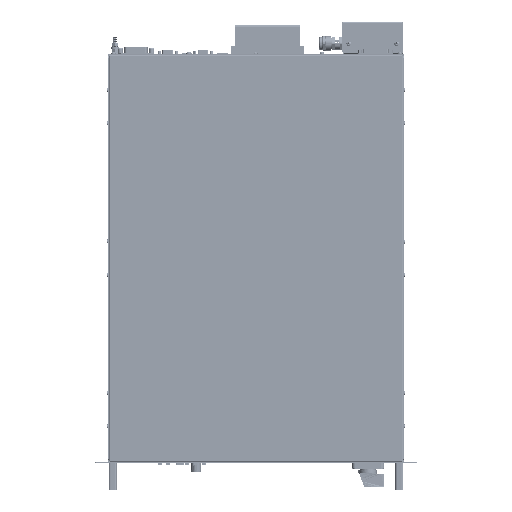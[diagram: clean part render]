
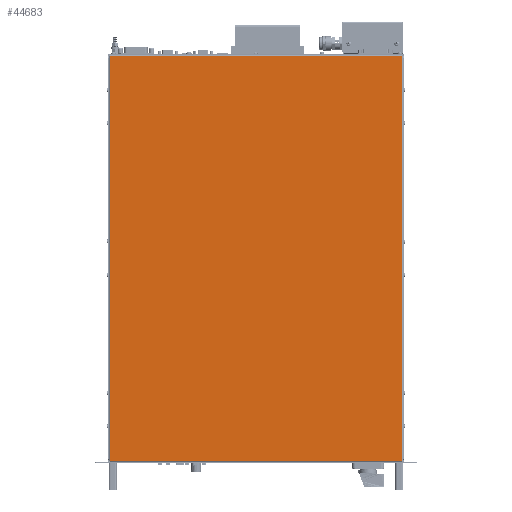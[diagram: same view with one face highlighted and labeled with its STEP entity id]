
A CAD part, top view. The second image highlights one B-rep face of the part: STEP entity #44683.
In plain terms, the highlighted planar face has unit normal (0, 0, 1).
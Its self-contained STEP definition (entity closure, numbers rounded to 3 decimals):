
#44683=ADVANCED_FACE('',(#89560),#89561,.F.);
#89560=FACE_OUTER_BOUND('',#154399,.T.);
#89561=PLANE('',#154400);
#154399=EDGE_LOOP('',(#260848,#260849,#260850,#260851,#260852,#260853,#260854,#260855,#260856,#260857,#260858,#260859));
#154400=AXIS2_PLACEMENT_3D('',#260860,#260861,#260862);
#260848=ORIENTED_EDGE('',*,*,#324007,.F.);
#260849=ORIENTED_EDGE('',*,*,#324253,.T.);
#260850=ORIENTED_EDGE('',*,*,#324280,.T.);
#260851=ORIENTED_EDGE('',*,*,#324290,.T.);
#260852=ORIENTED_EDGE('',*,*,#324268,.T.);
#260853=ORIENTED_EDGE('',*,*,#324259,.T.);
#260854=ORIENTED_EDGE('',*,*,#324373,.F.);
#260855=ORIENTED_EDGE('',*,*,#324304,.F.);
#260856=ORIENTED_EDGE('',*,*,#324313,.F.);
#260857=ORIENTED_EDGE('',*,*,#324341,.F.);
#260858=ORIENTED_EDGE('',*,*,#324326,.F.);
#260859=ORIENTED_EDGE('',*,*,#324218,.F.);
#260860=CARTESIAN_POINT('',(221.367,285.648,132.289));
#260861=DIRECTION('',(0.0,-0.0,-1.0));
#260862=DIRECTION('',(1.0,0.,0.0));
#324007=EDGE_CURVE('',#386945,#386947,#386948,.T.);
#324218=EDGE_CURVE('',#386947,#387270,#387271,.T.);
#324253=EDGE_CURVE('',#386945,#387324,#387326,.F.);
#324259=EDGE_CURVE('',#387332,#387333,#387334,.F.);
#324268=EDGE_CURVE('',#387349,#387332,#387350,.F.);
#324280=EDGE_CURVE('',#387324,#387363,#387365,.F.);
#324290=EDGE_CURVE('',#387363,#387349,#387379,.F.);
#324304=EDGE_CURVE('',#387393,#387394,#387395,.T.);
#324313=EDGE_CURVE('',#387410,#387393,#387411,.T.);
#324326=EDGE_CURVE('',#387270,#387431,#387432,.T.);
#324341=EDGE_CURVE('',#387431,#387410,#387454,.T.);
#324373=EDGE_CURVE('',#387394,#387333,#387494,.T.);
#386945=VERTEX_POINT('',#483403);
#386947=VERTEX_POINT('',#483405);
#386948=LINE('',#483406,#483407);
#387270=VERTEX_POINT('',#483814);
#387271=LINE('',#483815,#483816);
#387324=VERTEX_POINT('',#483894);
#387326=LINE('',#483897,#483898);
#387332=VERTEX_POINT('',#483906);
#387333=VERTEX_POINT('',#483907);
#387334=LINE('',#483908,#483909);
#387349=VERTEX_POINT('',#483929);
#387350=LINE('',#483930,#483931);
#387363=VERTEX_POINT('',#483949);
#387365=LINE('',#483951,#483952);
#387379=LINE('',#483972,#483973);
#387393=VERTEX_POINT('',#483992);
#387394=VERTEX_POINT('',#483993);
#387395=LINE('',#483994,#483995);
#387410=VERTEX_POINT('',#484015);
#387411=LINE('',#484016,#484017);
#387431=VERTEX_POINT('',#484044);
#387432=LINE('',#484045,#484046);
#387454=LINE('',#484078,#484079);
#387494=LINE('',#484137,#484138);
#483403=CARTESIAN_POINT('',(439.768,588.946,132.289));
#483405=CARTESIAN_POINT('',(439.768,-17.65,132.289));
#483406=CARTESIAN_POINT('',(439.768,285.648,132.289));
#483407=VECTOR('',#543630,1.0);
#483814=CARTESIAN_POINT('',(439.618,-17.65,132.289));
#483815=CARTESIAN_POINT('',(332.756,-17.65,132.289));
#483816=VECTOR('',#543941,1.0);
#483894=CARTESIAN_POINT('',(439.618,588.946,132.289));
#483897=CARTESIAN_POINT('',(332.756,588.946,132.289));
#483898=VECTOR('',#543974,1.0);
#483906=CARTESIAN_POINT('',(3.316,588.946,132.289));
#483907=CARTESIAN_POINT('',(3.166,588.946,132.289));
#483908=CARTESIAN_POINT('',(109.977,588.946,132.289));
#483909=VECTOR('',#543977,1.0);
#483929=CARTESIAN_POINT('',(3.316,589.096,132.289));
#483930=CARTESIAN_POINT('',(3.316,436.884,132.289));
#483931=VECTOR('',#543989,1.0);
#483949=CARTESIAN_POINT('',(439.618,589.096,132.289));
#483951=CARTESIAN_POINT('',(439.618,436.884,132.289));
#483952=VECTOR('',#544007,1.0);
#483972=CARTESIAN_POINT('',(442.818,589.096,132.289));
#483973=VECTOR('',#544014,1.0);
#483992=CARTESIAN_POINT('',(3.316,-17.65,132.289));
#483993=CARTESIAN_POINT('',(3.166,-17.65,132.289));
#483994=CARTESIAN_POINT('',(109.977,-17.65,132.289));
#483995=VECTOR('',#544020,1.0);
#484015=CARTESIAN_POINT('',(3.316,-17.8,132.289));
#484016=CARTESIAN_POINT('',(3.316,134.411,132.289));
#484017=VECTOR('',#544032,1.0);
#484044=CARTESIAN_POINT('',(439.618,-17.8,132.289));
#484045=CARTESIAN_POINT('',(439.618,134.411,132.289));
#484046=VECTOR('',#544049,1.0);
#484078=CARTESIAN_POINT('',(442.818,-17.8,132.289));
#484079=VECTOR('',#544063,1.0);
#484137=CARTESIAN_POINT('',(3.166,-20.,132.289));
#484138=VECTOR('',#544082,1.0);
#543630=DIRECTION('',(0.,-1.0,0.0));
#543941=DIRECTION('',(-1.0,0.,0.0));
#543974=DIRECTION('',(1.0,0.,0.0));
#543977=DIRECTION('',(1.0,0.,0.0));
#543989=DIRECTION('',(0.,1.0,0.0));
#544007=DIRECTION('',(0.,-1.0,0.0));
#544014=DIRECTION('',(1.0,0.,0.0));
#544020=DIRECTION('',(-1.0,0.,0.0));
#544032=DIRECTION('',(0.,1.0,0.0));
#544049=DIRECTION('',(0.,-1.0,0.0));
#544063=DIRECTION('',(-1.0,0.,0.0));
#544082=DIRECTION('',(0.,1.0,0.0));
